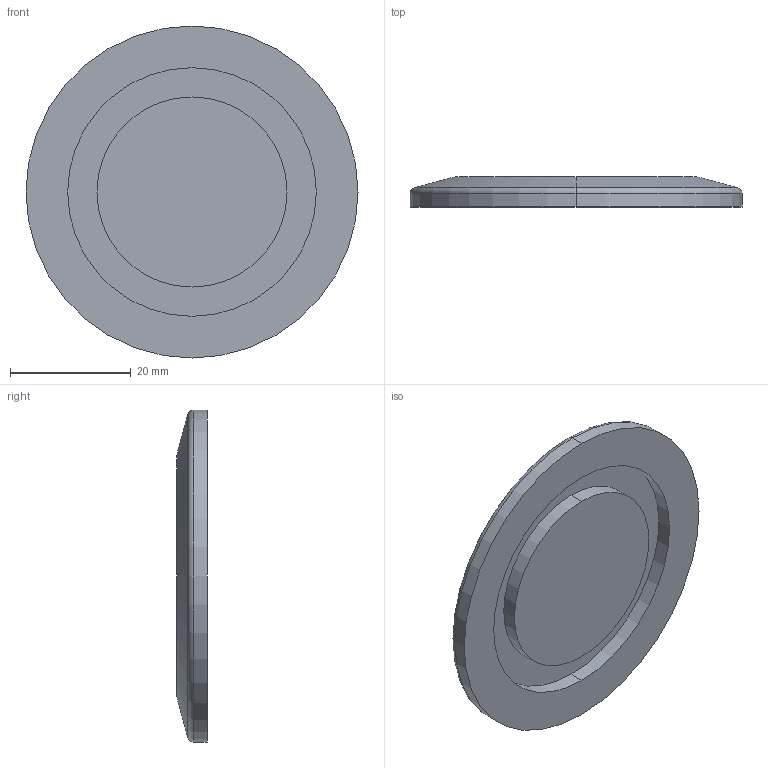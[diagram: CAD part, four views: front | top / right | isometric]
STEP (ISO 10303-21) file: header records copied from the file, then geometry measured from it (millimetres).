
FILE_DESCRIPTION (( 'STEP AP214' ), '1' );
FILE_NAME ('W3BF40.STEP', '2019-03-25T10:30:54', ( '' ), ( '' ), 'SwSTEP 2.0', 'SolidWorks 2018', '' );
FILE_SCHEMA (( 'AUTOMOTIVE_DESIGN' ));
Length unit declared in the file: millimetre
Products named in the file (1): W3BF40
Bounding box: 55 x 5 x 55 mm (x, y, z)
Volume: 9302.1 mm3; surface area: 5841 mm2
Topology: 1 solids, 1 shells, 14 faces, 26 edges, 16 vertices
Faces by surface type: cylinder 6, plane 4, torus 2, cone 2
Entity records: 390 total; most frequent: DIRECTION 74, CARTESIAN_POINT 57, ORIENTED_EDGE 52, AXIS2_PLACEMENT_3D 33, EDGE_CURVE 26, CIRCLE 18, EDGE_LOOP 16, VERTEX_POINT 16
